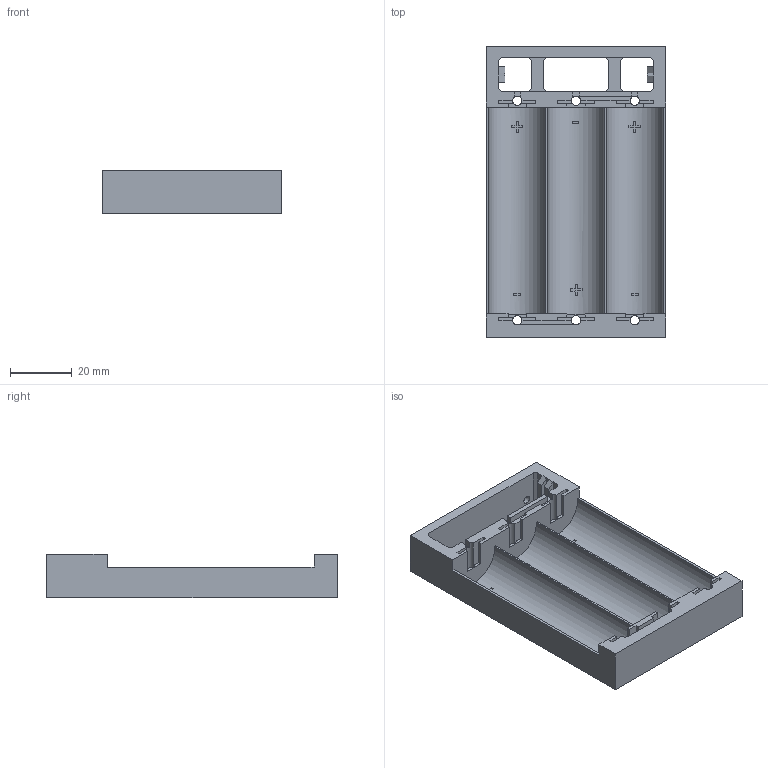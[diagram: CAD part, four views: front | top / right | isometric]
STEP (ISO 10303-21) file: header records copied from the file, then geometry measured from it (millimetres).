
FILE_DESCRIPTION(/* description */ (''),/* implementation_level */ '2;1');
FILE_NAME(/* name */ '/Users/Apple/Downloads/FT-817_3x18650_Battery_holder v16.step',/* time_stamp */ '2022-03-12T21:24:38+03:00',/* author */ (''),/* organization */ (''),/* preprocessor_version */ 'ST-DEVELOPER v18.1',/* originating_system */ 'Autodesk Translation Framework v10.13.0.1454',/* authorisation */ '');
FILE_SCHEMA (('AUTOMOTIVE_DESIGN { 1 0 10303 214 3 1 1 }'));
Length unit declared in the file: millimetre
Products named in the file (1): FT-817_3x18650_Battery_holder
Bounding box: 58 x 94 x 14.2 mm (x, y, z)
Volume: 22301.2 mm3; surface area: 21732.2 mm2
Topology: 1 solids, 1 shells, 221 faces, 663 edges, 436 vertices
Faces by surface type: plane 211, cylinder 10
Full cylindrical faces by diameter (mm): 2.5 x1, 3 x6
Entity records: 7419 total; most frequent: ORIENTED_EDGE 1326, CARTESIAN_POINT 1321, DIRECTION 1191, EDGE_CURVE 663, LINE 579, VECTOR 579, VERTEX_POINT 436, AXIS2_PLACEMENT_3D 306
